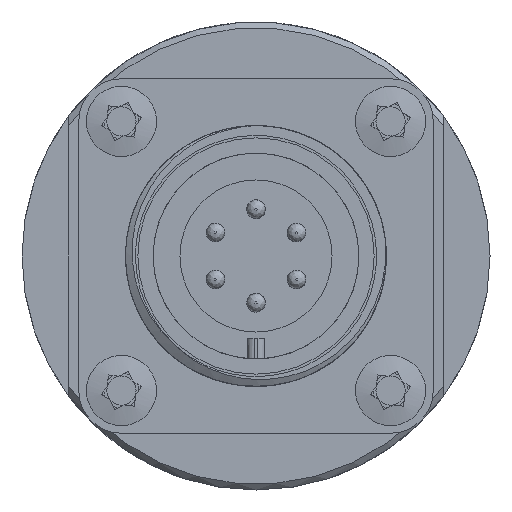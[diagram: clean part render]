
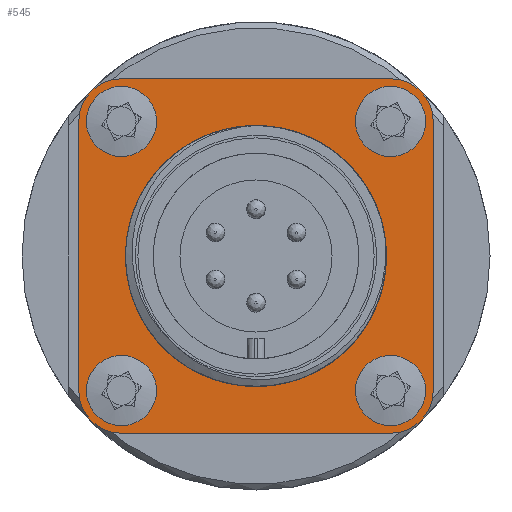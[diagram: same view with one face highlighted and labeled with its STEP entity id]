
A CAD part, front view. The second image highlights one B-rep face of the part: STEP entity #545.
In plain terms, the highlighted planar face has unit normal (0, -1, 0) as drawn and (-1, 0, 0) by its records, which use the part's own axes.
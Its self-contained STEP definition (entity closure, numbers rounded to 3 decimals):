
#545 = ADVANCED_FACE( '', ( #1114, #1115, #1116, #1117, #1118, #1119 ), #1120, .F. );
#1114 = FACE_BOUND( '', #4425, .T. );
#1115 = FACE_BOUND( '', #4426, .T. );
#1116 = FACE_OUTER_BOUND( '', #4427, .T. );
#1117 = FACE_BOUND( '', #4428, .T. );
#1118 = FACE_BOUND( '', #4429, .T. );
#1119 = FACE_BOUND( '', #4430, .T. );
#1120 = PLANE( '', #4431 );
#4425 = EDGE_LOOP( '', ( #7304 ) );
#4426 = EDGE_LOOP( '', ( #7305 ) );
#4427 = EDGE_LOOP( '', ( #7306, #7307, #7308, #7309, #7310, #7311, #7312, #7313 ) );
#4428 = EDGE_LOOP( '', ( #7314 ) );
#4429 = EDGE_LOOP( '', ( #7315 ) );
#4430 = EDGE_LOOP( '', ( #7316 ) );
#4431 = AXIS2_PLACEMENT_3D( '', #7317, #7318, #7319 );
#7304 = ORIENTED_EDGE( '', *, *, #8204, .T. );
#7305 = ORIENTED_EDGE( '', *, *, #8248, .T. );
#7306 = ORIENTED_EDGE( '', *, *, #8388, .F. );
#7307 = ORIENTED_EDGE( '', *, *, #8389, .F. );
#7308 = ORIENTED_EDGE( '', *, *, #8390, .F. );
#7309 = ORIENTED_EDGE( '', *, *, #8253, .F. );
#7310 = ORIENTED_EDGE( '', *, *, #8391, .F. );
#7311 = ORIENTED_EDGE( '', *, *, #8142, .F. );
#7312 = ORIENTED_EDGE( '', *, *, #8392, .F. );
#7313 = ORIENTED_EDGE( '', *, *, #8393, .F. );
#7314 = ORIENTED_EDGE( '', *, *, #8394, .T. );
#7315 = ORIENTED_EDGE( '', *, *, #8395, .T. );
#7316 = ORIENTED_EDGE( '', *, *, #8352, .T. );
#7317 = CARTESIAN_POINT( '', ( -2.4, -11.5, 11.5 ) );
#7318 = DIRECTION( '', ( 1., 0., 0. ) );
#7319 = DIRECTION( '', ( 0., 1., 0. ) );
#8142 = EDGE_CURVE( '', #8699, #8701, #8702, .T. );
#8204 = EDGE_CURVE( '', #8803, #8803, #8804, .T. );
#8248 = EDGE_CURVE( '', #8872, #8872, #8873, .T. );
#8253 = EDGE_CURVE( '', #8878, #8880, #8881, .T. );
#8352 = EDGE_CURVE( '', #9034, #9034, #9035, .T. );
#8388 = EDGE_CURVE( '', #9088, #9089, #9090, .T. );
#8389 = EDGE_CURVE( '', #9091, #9088, #9092, .T. );
#8390 = EDGE_CURVE( '', #8880, #9091, #9093, .T. );
#8391 = EDGE_CURVE( '', #8701, #8878, #9094, .T. );
#8392 = EDGE_CURVE( '', #9095, #8699, #9096, .T. );
#8393 = EDGE_CURVE( '', #9089, #9095, #9097, .T. );
#8394 = EDGE_CURVE( '', #9098, #9098, #9099, .T. );
#8395 = EDGE_CURVE( '', #9100, #9100, #9101, .T. );
#8699 = VERTEX_POINT( '', #9574 );
#8701 = VERTEX_POINT( '', #9577 );
#8702 = LINE( '', #9578, #9579 );
#8803 = VERTEX_POINT( '', #9751 );
#8804 = CIRCLE( '', #9752, 11.15 );
#8872 = VERTEX_POINT( '', #10493 );
#8873 = CIRCLE( '', #10494, 1.5 );
#8878 = VERTEX_POINT( '', #10499 );
#8880 = VERTEX_POINT( '', #10502 );
#8881 = LINE( '', #10503, #10504 );
#9034 = VERTEX_POINT( '', #12085 );
#9035 = CIRCLE( '', #12086, 1.5 );
#9088 = VERTEX_POINT( '', #12187 );
#9089 = VERTEX_POINT( '', #12188 );
#9090 = CIRCLE( '', #12189, 3.65 );
#9091 = VERTEX_POINT( '', #12190 );
#9092 = LINE( '', #12191, #12192 );
#9093 = CIRCLE( '', #12193, 3.65 );
#9094 = CIRCLE( '', #12194, 3.65 );
#9095 = VERTEX_POINT( '', #12195 );
#9096 = CIRCLE( '', #12196, 3.65 );
#9097 = LINE( '', #12197, #12198 );
#9098 = VERTEX_POINT( '', #12199 );
#9099 = CIRCLE( '', #12200, 1.5 );
#9100 = VERTEX_POINT( '', #12201 );
#9101 = CIRCLE( '', #12202, 1.5 );
#9574 = CARTESIAN_POINT( '', ( -2.4, -11.5, -15.15 ) );
#9577 = CARTESIAN_POINT( '', ( -2.4, 11.5, -15.15 ) );
#9578 = CARTESIAN_POINT( '', ( -2.4, -11.5, -15.15 ) );
#9579 = VECTOR( '', #13315, 1000. );
#9751 = CARTESIAN_POINT( '', ( -2.4, 11.15, 0. ) );
#9752 = AXIS2_PLACEMENT_3D( '', #13406, #13407, #13408 );
#10493 = CARTESIAN_POINT( '', ( -2.4, -10., 11.5 ) );
#10494 = AXIS2_PLACEMENT_3D( '', #13451, #13452, #13453 );
#10499 = CARTESIAN_POINT( '', ( -2.4, 15.15, -11.5 ) );
#10502 = CARTESIAN_POINT( '', ( -2.4, 15.15, 11.5 ) );
#10503 = CARTESIAN_POINT( '', ( -2.4, 15.15, 11.5 ) );
#10504 = VECTOR( '', #13458, 1000. );
#12085 = CARTESIAN_POINT( '', ( -2.4, -10., -11.5 ) );
#12086 = AXIS2_PLACEMENT_3D( '', #13570, #13571, #13572 );
#12187 = CARTESIAN_POINT( '', ( -2.4, -11.5, 15.15 ) );
#12188 = CARTESIAN_POINT( '', ( -2.4, -15.15, 11.5 ) );
#12189 = AXIS2_PLACEMENT_3D( '', #13606, #13607, #13608 );
#12190 = CARTESIAN_POINT( '', ( -2.4, 11.5, 15.15 ) );
#12191 = CARTESIAN_POINT( '', ( -2.4, -11.5, 15.15 ) );
#12192 = VECTOR( '', #13609, 1000. );
#12193 = AXIS2_PLACEMENT_3D( '', #13610, #13611, #13612 );
#12194 = AXIS2_PLACEMENT_3D( '', #13613, #13614, #13615 );
#12195 = CARTESIAN_POINT( '', ( -2.4, -15.15, -11.5 ) );
#12196 = AXIS2_PLACEMENT_3D( '', #13616, #13617, #13618 );
#12197 = CARTESIAN_POINT( '', ( -2.4, -15.15, 11.5 ) );
#12198 = VECTOR( '', #13619, 1000. );
#12199 = CARTESIAN_POINT( '', ( -2.4, 13., 11.5 ) );
#12200 = AXIS2_PLACEMENT_3D( '', #13620, #13621, #13622 );
#12201 = CARTESIAN_POINT( '', ( -2.4, 13., -11.5 ) );
#12202 = AXIS2_PLACEMENT_3D( '', #13623, #13624, #13625 );
#13315 = DIRECTION( '', ( 0., 1., 0. ) );
#13406 = CARTESIAN_POINT( '', ( -2.4, 0., 0. ) );
#13407 = DIRECTION( '', ( 1., 0., 0. ) );
#13408 = DIRECTION( '', ( 0., 1., 0. ) );
#13451 = CARTESIAN_POINT( '', ( -2.4, -11.5, 11.5 ) );
#13452 = DIRECTION( '', ( 1., 0., 0. ) );
#13453 = DIRECTION( '', ( 0., 1., 0. ) );
#13458 = DIRECTION( '', ( 0., 0., 1. ) );
#13570 = CARTESIAN_POINT( '', ( -2.4, -11.5, -11.5 ) );
#13571 = DIRECTION( '', ( 1., 0., 0. ) );
#13572 = DIRECTION( '', ( 0., 1., 0. ) );
#13606 = CARTESIAN_POINT( '', ( -2.4, -11.5, 11.5 ) );
#13607 = DIRECTION( '', ( 1., 0., 0. ) );
#13608 = DIRECTION( '', ( 0., 1., 0. ) );
#13609 = DIRECTION( '', ( 0., -1., 0. ) );
#13610 = CARTESIAN_POINT( '', ( -2.4, 11.5, 11.5 ) );
#13611 = DIRECTION( '', ( 1., 0., 0. ) );
#13612 = DIRECTION( '', ( 0., 1., 0. ) );
#13613 = CARTESIAN_POINT( '', ( -2.4, 11.5, -11.5 ) );
#13614 = DIRECTION( '', ( 1., 0., 0. ) );
#13615 = DIRECTION( '', ( 0., -1., 0. ) );
#13616 = CARTESIAN_POINT( '', ( -2.4, -11.5, -11.5 ) );
#13617 = DIRECTION( '', ( 1., 0., 0. ) );
#13618 = DIRECTION( '', ( 0., 1., 0. ) );
#13619 = DIRECTION( '', ( 0., 0., -1. ) );
#13620 = CARTESIAN_POINT( '', ( -2.4, 11.5, 11.5 ) );
#13621 = DIRECTION( '', ( 1., 0., 0. ) );
#13622 = DIRECTION( '', ( 0., 1., 0. ) );
#13623 = CARTESIAN_POINT( '', ( -2.4, 11.5, -11.5 ) );
#13624 = DIRECTION( '', ( 1., 0., 0. ) );
#13625 = DIRECTION( '', ( 0., 1., 0. ) );
